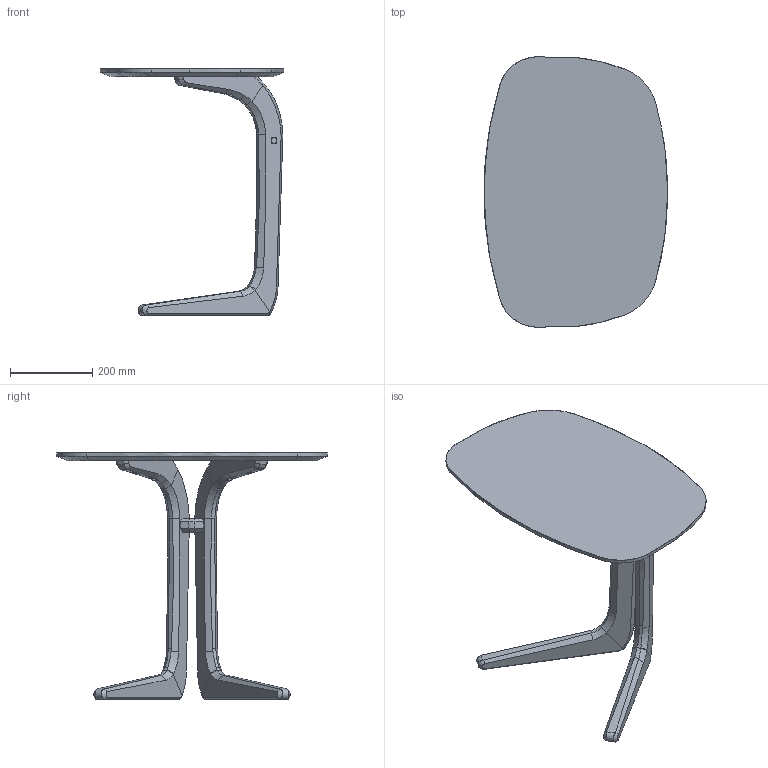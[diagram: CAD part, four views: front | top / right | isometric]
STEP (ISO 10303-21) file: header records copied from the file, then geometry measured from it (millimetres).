
FILE_DESCRIPTION(/* description */ (''),/* implementation_level */ '2;1');
FILE_NAME(/* name */ 'Proces Let Me side table STEP',/* time_stamp */ '2023-02-24T08:00:03+01:00',/* author */ (''),/* organization */ (''),/* preprocessor_version */ 'ST-DEVELOPER v16.5',/* originating_system */ '',/* authorisation */ '');
FILE_SCHEMA (('AUTOMOTIVE_DESIGN'));
Length unit declared in the file: millimetre
Products named in the file (1): Document
Bounding box: 446.67 x 658.65 x 600.87 mm (x, y, z)
Volume: 8480800.7 mm3; surface area: 1412823.3 mm2
Topology: 7 solids, 7 shells, 270 faces, 681 edges, 431 vertices
Faces by surface type: bspline 190, plane 80
Entity records: 9231 total; most frequent: CARTESIAN_POINT 5187, ORIENTED_EDGE 1338, EDGE_CURVE 669, VERTEX_POINT 431, B_SPLINE_CURVE_WITH_KNOTS 392, EDGE_LOOP 304, ADVANCED_FACE 270, FACE_OUTER_BOUND 270
